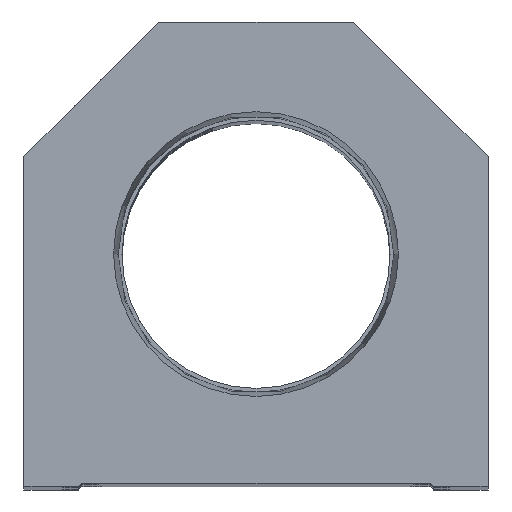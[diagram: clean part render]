
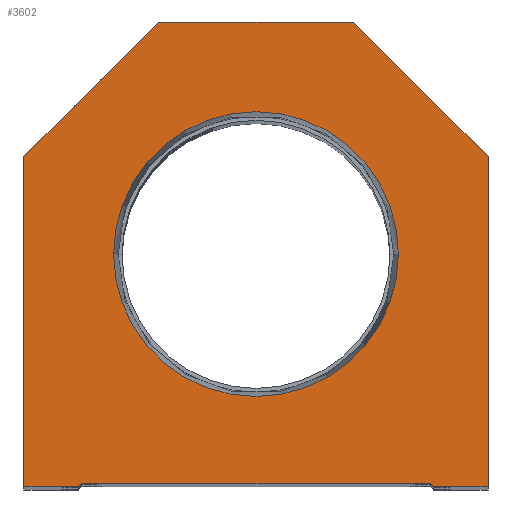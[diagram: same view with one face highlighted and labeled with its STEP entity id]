
A CAD part, top view. The second image highlights one B-rep face of the part: STEP entity #3602.
In plain terms, the highlighted planar face has unit normal (0, 0, 1).
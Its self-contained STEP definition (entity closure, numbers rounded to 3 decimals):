
#106 = LINE ( 'NONE', #4772, #18043 ) ;
#773 = CARTESIAN_POINT ( 'NONE',  ( -14.55, 14.55, 0. ) ) ;
#1028 = CARTESIAN_POINT ( 'NONE',  ( 16., 76.2, 0. ) ) ;
#1191 = ORIENTED_EDGE ( 'NONE', *, *, #14640, .F. ) ;
#1327 = EDGE_CURVE ( 'NONE', #6047, #17870, #4091, .T. ) ;
#1371 = CARTESIAN_POINT ( 'NONE',  ( -29.1, 0., 0. ) ) ;
#1384 = DIRECTION ( 'NONE',  ( 1., 0., 0. ) ) ;
#1701 = EDGE_CURVE ( 'NONE', #13491, #17291, #19313, .T. ) ;
#1732 = ORIENTED_EDGE ( 'NONE', *, *, #15732, .T. ) ;
#1829 = CARTESIAN_POINT ( 'NONE',  ( 14.55, 14.55, 0. ) ) ;
#1981 = DIRECTION ( 'NONE',  ( 0., 0., 1. ) ) ;
#2310 = CARTESIAN_POINT ( 'NONE',  ( 28.6, 0., 0. ) ) ;
#2560 = LINE ( 'NONE', #15221, #15043 ) ;
#2615 = EDGE_LOOP ( 'NONE', ( #15782, #19730, #1732, #16667, #17804, #3791, #11164, #19464, #14314, #15492 ) ) ;
#2736 = AXIS2_PLACEMENT_3D ( 'NONE', #5069, #1981, #11916 ) ;
#2953 = EDGE_CURVE ( 'NONE', #10633, #4224, #6994, .T. ) ;
#3030 = LINE ( 'NONE', #7559, #19664 ) ;
#3111 = AXIS2_PLACEMENT_3D ( 'NONE', #12140, #20135, #7233 ) ;
#3343 = VECTOR ( 'NONE', #5083, 1000. ) ;
#3602 = ADVANCED_FACE ( 'NONE', ( #6614, #12973 ), #11413, .T. ) ;
#3754 = VECTOR ( 'NONE', #3813, 1000. ) ;
#3791 = ORIENTED_EDGE ( 'NONE', *, *, #1701, .T. ) ;
#3813 = DIRECTION ( 'NONE',  ( -0.707, -0.707, 0. ) ) ;
#4091 = LINE ( 'NONE', #7494, #10261 ) ;
#4224 = VERTEX_POINT ( 'NONE', #17465 ) ;
#4232 = LINE ( 'NONE', #1028, #12683 ) ;
#4276 = VERTEX_POINT ( 'NONE', #14130 ) ;
#4772 = CARTESIAN_POINT ( 'NONE',  ( -28.6, 0.5, 0. ) ) ;
#5069 = CARTESIAN_POINT ( 'NONE',  ( 0., 0., 0. ) ) ;
#5083 = DIRECTION ( 'NONE',  ( 0., 1., 0. ) ) ;
#5763 = VERTEX_POINT ( 'NONE', #13594 ) ;
#6047 = VERTEX_POINT ( 'NONE', #13890 ) ;
#6228 = CARTESIAN_POINT ( 'NONE',  ( 0., 38.1, 0. ) ) ;
#6603 = VERTEX_POINT ( 'NONE', #19714 ) ;
#6614 = FACE_BOUND ( 'NONE', #8331, .T. ) ;
#6994 = CIRCLE ( 'NONE', #12308, 23.374 ) ;
#7184 = CARTESIAN_POINT ( 'NONE',  ( 23.374, 38.1, 0. ) ) ;
#7233 = DIRECTION ( 'NONE',  ( 1., 0., 0. ) ) ;
#7494 = CARTESIAN_POINT ( 'NONE',  ( -28.6, 0., 0. ) ) ;
#7559 = CARTESIAN_POINT ( 'NONE',  ( -38.1, 0., 0. ) ) ;
#7617 = CARTESIAN_POINT ( 'NONE',  ( 29.1, 0., 0. ) ) ;
#8331 = EDGE_LOOP ( 'NONE', ( #8835, #1191 ) ) ;
#8835 = ORIENTED_EDGE ( 'NONE', *, *, #2953, .F. ) ;
#9216 = EDGE_CURVE ( 'NONE', #10493, #13491, #19433, .T. ) ;
#9746 = VERTEX_POINT ( 'NONE', #9925 ) ;
#9814 = EDGE_CURVE ( 'NONE', #5763, #10493, #14162, .T. ) ;
#9925 = CARTESIAN_POINT ( 'NONE',  ( 16., 76.2, 0. ) ) ;
#9976 = DIRECTION ( 'NONE',  ( 1., 0., 0. ) ) ;
#10261 = VECTOR ( 'NONE', #19971, 1000. ) ;
#10435 = CARTESIAN_POINT ( 'NONE',  ( 38.1, 54.1, 0. ) ) ;
#10493 = VERTEX_POINT ( 'NONE', #7617 ) ;
#10552 = DIRECTION ( 'NONE',  ( -1., 0., 0. ) ) ;
#10633 = VERTEX_POINT ( 'NONE', #7184 ) ;
#11164 = ORIENTED_EDGE ( 'NONE', *, *, #12114, .T. ) ;
#11310 = EDGE_CURVE ( 'NONE', #19242, #4276, #11402, .T. ) ;
#11402 = LINE ( 'NONE', #14527, #3754 ) ;
#11413 = PLANE ( 'NONE',  #2736 ) ;
#11771 = DIRECTION ( 'NONE',  ( 0.707, 0.707, 0. ) ) ;
#11916 = DIRECTION ( 'NONE',  ( 1., 0., 0. ) ) ;
#12114 = EDGE_CURVE ( 'NONE', #17291, #9746, #2560, .T. ) ;
#12140 = CARTESIAN_POINT ( 'NONE',  ( 0., 38.1, 0. ) ) ;
#12308 = AXIS2_PLACEMENT_3D ( 'NONE', #6228, #20262, #1384 ) ;
#12659 = CARTESIAN_POINT ( 'NONE',  ( -16., 76.2, 0. ) ) ;
#12683 = VECTOR ( 'NONE', #10552, 1000. ) ;
#12973 = FACE_OUTER_BOUND ( 'NONE', #2615, .T. ) ;
#13039 = CIRCLE ( 'NONE', #3111, 23.374 ) ;
#13177 = CARTESIAN_POINT ( 'NONE',  ( 38.1, 0., 0. ) ) ;
#13320 = EDGE_CURVE ( 'NONE', #4276, #6047, #3030, .T. ) ;
#13491 = VERTEX_POINT ( 'NONE', #20317 ) ;
#13594 = CARTESIAN_POINT ( 'NONE',  ( 28.6, 0.5, 0. ) ) ;
#13662 = DIRECTION ( 'NONE',  ( -0.707, 0.707, 0. ) ) ;
#13890 = CARTESIAN_POINT ( 'NONE',  ( -38.1, 0., 0. ) ) ;
#13923 = DIRECTION ( 'NONE',  ( 0., -1., 0. ) ) ;
#14067 = DIRECTION ( 'NONE',  ( 0.707, -0.707, 0. ) ) ;
#14130 = CARTESIAN_POINT ( 'NONE',  ( -38.1, 54.1, 0. ) ) ;
#14162 = LINE ( 'NONE', #1829, #16257 ) ;
#14314 = ORIENTED_EDGE ( 'NONE', *, *, #11310, .T. ) ;
#14527 = CARTESIAN_POINT ( 'NONE',  ( -38.1, 54.1, 0. ) ) ;
#14640 = EDGE_CURVE ( 'NONE', #4224, #10633, #13039, .T. ) ;
#14889 = LINE ( 'NONE', #773, #17675 ) ;
#15043 = VECTOR ( 'NONE', #13662, 1000. ) ;
#15221 = CARTESIAN_POINT ( 'NONE',  ( 38.1, 54.1, 0. ) ) ;
#15492 = ORIENTED_EDGE ( 'NONE', *, *, #13320, .T. ) ;
#15732 = EDGE_CURVE ( 'NONE', #6603, #5763, #106, .T. ) ;
#15782 = ORIENTED_EDGE ( 'NONE', *, *, #1327, .T. ) ;
#16257 = VECTOR ( 'NONE', #14067, 1000. ) ;
#16667 = ORIENTED_EDGE ( 'NONE', *, *, #9814, .T. ) ;
#17071 = EDGE_CURVE ( 'NONE', #9746, #19242, #4232, .T. ) ;
#17291 = VERTEX_POINT ( 'NONE', #10435 ) ;
#17455 = EDGE_CURVE ( 'NONE', #17870, #6603, #14889, .T. ) ;
#17465 = CARTESIAN_POINT ( 'NONE',  ( -23.374, 38.1, 0. ) ) ;
#17675 = VECTOR ( 'NONE', #11771, 1000. ) ;
#17804 = ORIENTED_EDGE ( 'NONE', *, *, #9216, .T. ) ;
#17870 = VERTEX_POINT ( 'NONE', #1371 ) ;
#18043 = VECTOR ( 'NONE', #20065, 1000. ) ;
#19242 = VERTEX_POINT ( 'NONE', #12659 ) ;
#19313 = LINE ( 'NONE', #13177, #3343 ) ;
#19433 = LINE ( 'NONE', #2310, #19889 ) ;
#19464 = ORIENTED_EDGE ( 'NONE', *, *, #17071, .T. ) ;
#19664 = VECTOR ( 'NONE', #13923, 1000. ) ;
#19714 = CARTESIAN_POINT ( 'NONE',  ( -28.6, 0.5, 0. ) ) ;
#19730 = ORIENTED_EDGE ( 'NONE', *, *, #17455, .T. ) ;
#19889 = VECTOR ( 'NONE', #9976, 1000. ) ;
#19971 = DIRECTION ( 'NONE',  ( 1., 0., 0. ) ) ;
#20065 = DIRECTION ( 'NONE',  ( 1., 0., 0. ) ) ;
#20135 = DIRECTION ( 'NONE',  ( 0., 0., 1. ) ) ;
#20262 = DIRECTION ( 'NONE',  ( 0., 0., 1. ) ) ;
#20317 = CARTESIAN_POINT ( 'NONE',  ( 38.1, 0., 0. ) ) ;
